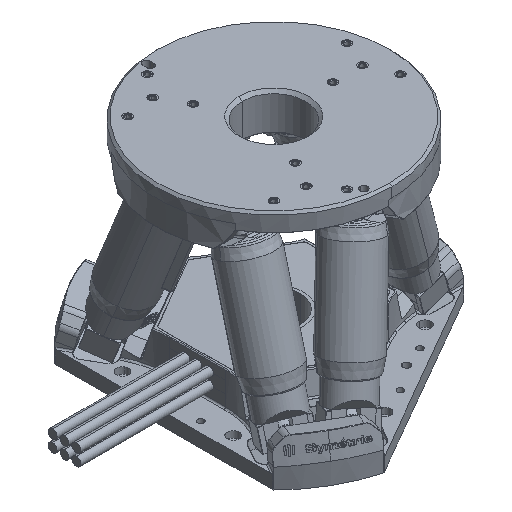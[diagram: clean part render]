
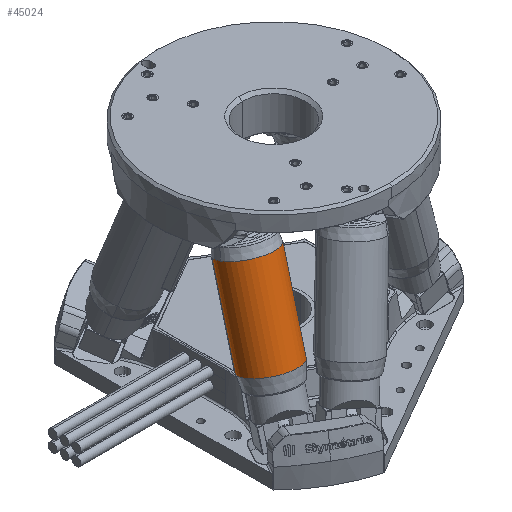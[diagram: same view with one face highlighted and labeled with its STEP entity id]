
A CAD part, isometric view. The second image highlights one B-rep face of the part: STEP entity #45024.
In plain terms, the highlighted cylindrical face has radius 17.5 mm (diameter 35 mm), a partial arc.
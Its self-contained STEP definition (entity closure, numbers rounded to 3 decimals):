
#3262 = CARTESIAN_POINT ( 'NONE',  ( -82.075, 8.75, 15.155 ) ) ;
#3536 = CIRCLE ( 'NONE', #9664, 17.5 ) ;
#8971 = VECTOR ( 'NONE', #34186, 1000. ) ;
#9664 = AXIS2_PLACEMENT_3D ( 'NONE', #18930, #60323, #24844 ) ;
#10702 = AXIS2_PLACEMENT_3D ( 'NONE', #50079, #14632, #43851 ) ;
#10925 = EDGE_CURVE ( 'NONE', #18550, #61083, #24660, .T. ) ;
#12120 = CYLINDRICAL_SURFACE ( 'NONE', #10702, 17.5 ) ;
#13440 = CARTESIAN_POINT ( 'NONE',  ( -22., 8.75, 15.155 ) ) ;
#14632 = DIRECTION ( 'NONE',  ( -1., 0., 0. ) ) ;
#15823 = DIRECTION ( 'NONE',  ( -1., 0., 0. ) ) ;
#18550 = VERTEX_POINT ( 'NONE', #13440 ) ;
#18930 = CARTESIAN_POINT ( 'NONE',  ( -22., 0., 0. ) ) ;
#20252 = VERTEX_POINT ( 'NONE', #51981 ) ;
#24660 = LINE ( 'NONE', #51866, #8971 ) ;
#24844 = DIRECTION ( 'NONE',  ( 0., -0.5, -0.866 ) ) ;
#28156 = CARTESIAN_POINT ( 'NONE',  ( -474.69, -8.75, -15.155 ) ) ;
#29276 = AXIS2_PLACEMENT_3D ( 'NONE', #51273, #15823, #57202 ) ;
#29513 = LINE ( 'NONE', #28156, #61023 ) ;
#30411 = ORIENTED_EDGE ( 'NONE', *, *, #75163, .T. ) ;
#33512 = VERTEX_POINT ( 'NONE', #64561 ) ;
#34186 = DIRECTION ( 'NONE',  ( -1., 0., 0. ) ) ;
#37627 = ORIENTED_EDGE ( 'NONE', *, *, #50694, .F. ) ;
#40281 = ORIENTED_EDGE ( 'NONE', *, *, #64327, .T. ) ;
#41110 = EDGE_LOOP ( 'NONE', ( #67951, #40281, #30411, #37627 ) ) ;
#43851 = DIRECTION ( 'NONE',  ( 0., -0.5, -0.866 ) ) ;
#45024 = ADVANCED_FACE ( 'NONE', ( #59347 ), #12120, .T. ) ;
#50079 = CARTESIAN_POINT ( 'NONE',  ( -474.69, 0., 0. ) ) ;
#50694 = EDGE_CURVE ( 'NONE', #61083, #20252, #69850, .T. ) ;
#51273 = CARTESIAN_POINT ( 'NONE',  ( -82.075, 0., 0. ) ) ;
#51866 = CARTESIAN_POINT ( 'NONE',  ( -474.69, 8.75, 15.155 ) ) ;
#51981 = CARTESIAN_POINT ( 'NONE',  ( -82.075, -8.75, -15.155 ) ) ;
#52033 = DIRECTION ( 'NONE',  ( -1., 0., 0. ) ) ;
#57202 = DIRECTION ( 'NONE',  ( 0., -0.5, -0.866 ) ) ;
#59347 = FACE_OUTER_BOUND ( 'NONE', #41110, .T. ) ;
#60323 = DIRECTION ( 'NONE',  ( -1., 0., 0. ) ) ;
#61023 = VECTOR ( 'NONE', #52033, 1000. ) ;
#61083 = VERTEX_POINT ( 'NONE', #3262 ) ;
#64327 = EDGE_CURVE ( 'NONE', #18550, #33512, #3536, .T. ) ;
#64561 = CARTESIAN_POINT ( 'NONE',  ( -22., -8.75, -15.155 ) ) ;
#67951 = ORIENTED_EDGE ( 'NONE', *, *, #10925, .F. ) ;
#69850 = CIRCLE ( 'NONE', #29276, 17.5 ) ;
#75163 = EDGE_CURVE ( 'NONE', #33512, #20252, #29513, .T. ) ;
